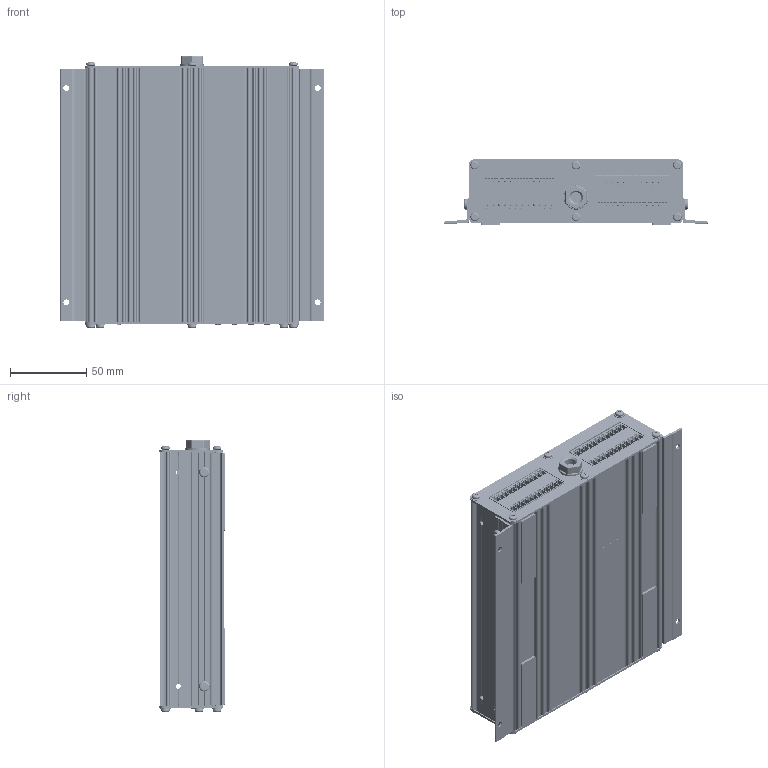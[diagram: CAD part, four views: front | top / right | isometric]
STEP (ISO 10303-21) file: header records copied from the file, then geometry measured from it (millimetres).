
FILE_DESCRIPTION((''),'2;1');
FILE_NAME('860-6304-001_ASM','2024-03-29T16:11:49',('JEFF'),(''),'CREO PARAMETRIC BY PTC INC, 2022164','CREO PARAMETRIC BY PTC INC, 2022164','');
FILE_SCHEMA(('CONFIG_CONTROL_DESIGN'));
Products named in the file (204): MSC-0085-001_SKID_DI_CM2_1; LABEL_1_75X1_1; INS_LABEL_PAD_ASM; CM2_DM_EXT_1; OPEN_CASCADE_STEP_TRANSLAT-2814; BOARD_ASM_1_ASM; TERMINAL-7870_ASM_1; MID_BODY-8843_ASM_1; 5684761424_ASM_1_ASM; R24_ASM_1_ASM; BODY-9257_ASM_1; END_PIN-10026_ASM_1; END_PIN-10673_ASM_1; MID_PIN-11320_ASM_1; 5628989888_ASM_1_ASM; RN2_ASM_1_ASM; TERMINAL-12027_ASM_1; MID_BODY-13000_ASM_1; 5628986688_ASM_1_ASM; C18_ASM_1_ASM; TERMINAL-13382_ASM_1; MID_BODY-14355_ASM_1; 5684761584_ASM_1_ASM; R38_ASM_1_ASM; TERMINAL-14737_ASM_1; MID_BODY-15710_ASM_1; 5629000928_ASM_1_ASM; R36_ASM_1_ASM; QFP100P50_1600X1600X160L60X22_A; U3_ASM_1_ASM; HCM4924000000ABJT_ASM_1; X1_ASM_1_ASM; BODY-62954_ASM_1; 7681697616_ASM_1_ASM; U2_ASM_1_ASM; BODY-65825_ASM_1; 6643540800_ASM_1_ASM; SOIC127P1030X265-20N-65669_ASM__ASM; U1_ASM_1_ASM; R56_ASM_1_ASM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
Assembly tree (317 placements, depth 11):
  860-6304-001_ASM
    INS_LABEL_PAD_ASM
      MSC-0085-001_SKID_DI_CM2_1  x4
      LABEL_1_75X1_1
    INST_MONT_ASM
      INS_REAL_PANEL_ASM
        INS_PCBA_FRONT_ASM
          CM2_DM_EXT_1
          ASY-0492-001_ASM
            INTERFACE_AUDIO_BOX_REV_0_5_ASM_ASM
              PCB_ASM_1_ASM
                BOARD_ASM_1_ASM
                  OPEN_CASCADE_STEP_TRANSLAT-2814
                R24_ASM_1_ASM
                  5684761424_ASM_1_ASM
                RN2_ASM_1_ASM
                  5628989888_ASM_1_ASM
                    END_PIN-10026_ASM_1  x2
                    END_PIN-10673_ASM_1  x2
                    MID_PIN-11320_ASM_1  x4
                C18_ASM_1_ASM
                  5628986688_ASM_1_ASM
                R38_ASM_1_ASM
                  5684761584_ASM_1_ASM
                R36_ASM_1_ASM
                  5629000928_ASM_1_ASM
                U3_ASM_1_ASM
                  QFP100P50_1600X1600X160L60X22_A
                X1_ASM_1_ASM
                  HCM4924000000ABJT_ASM_1
                U2_ASM_1_ASM
                  7681697616_ASM_1_ASM
                U1_ASM_1_ASM
                  SOIC127P1030X265-20N-65669_ASM__ASM
                R56_ASM_1_ASM
                  5628986688_ASM_1_ASM
                R61_ASM_1_ASM
                  5628986688_ASM_1_ASM
                R41_ASM_1_ASM
                  5629000928_ASM_1_ASM
                R10_ASM_1_ASM
                  5629000928_ASM_1_ASM
                R11_ASM_1_ASM
                  5628998528_ASM_1_ASM
                R51_ASM_1_ASM
                  5628992528_ASM_1_ASM
                R91_ASM_1_ASM
                  5628998528_ASM_1_ASM
                R62_ASM_1_ASM
                  5628986688_ASM_1_ASM
                R73_ASM_1_ASM
                  5628992528_ASM_1_ASM
                R31_ASM_1_ASM
                  5629000928_ASM_1_ASM
                R30_ASM_1_ASM
                  5629000928_ASM_1_ASM
                R43_ASM_1_ASM
                  5628998528_ASM_1_ASM
                R45_ASM_1_ASM
                  5629000928_ASM_1_ASM
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Bounding box: 172.4 x 42.59 x 177.94 mm (x, y, z)
Volume: 721663.2 mm3; surface area: 760249.5 mm2
Topology: 133 solids, 154 shells, 32294 faces, 89491 edges, 58630 vertices
Faces by surface type: plane 15314, cylinder 13093, bspline 2142, extrusion 594, cone 574, torus 364, sphere 213
Entity records: 243919 total; most frequent: CARTESIAN_POINT 58836, ORIENTED_EDGE 38278, DIRECTION 37448, EDGE_CURVE 19164, VECTOR 13394, LINE 13295, VERTEX_POINT 12535, AXIS2_PLACEMENT_3D 12027
